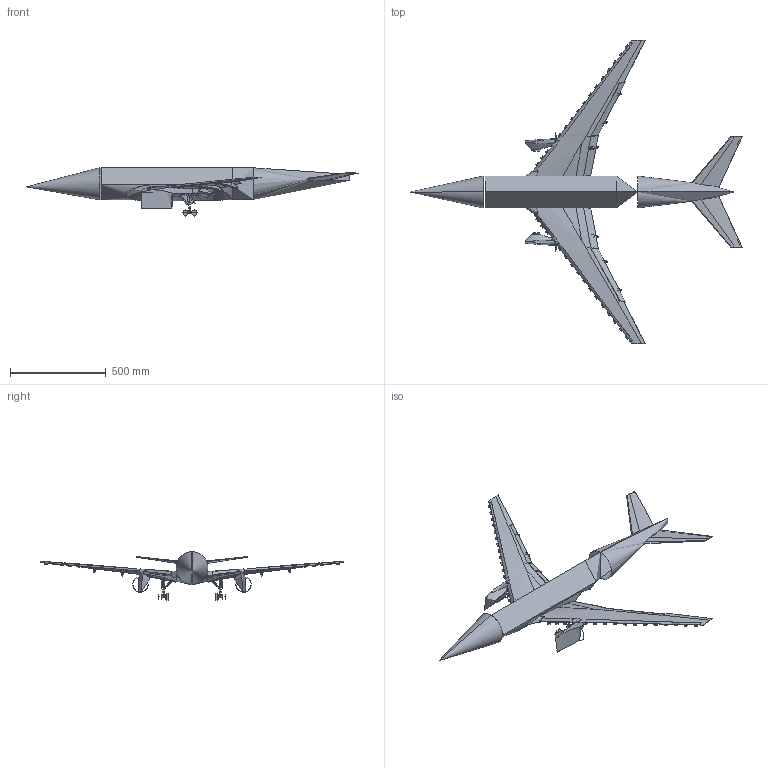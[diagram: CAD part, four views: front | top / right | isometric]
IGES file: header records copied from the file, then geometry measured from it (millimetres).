
Global section: file name: Z:\prj5.0\crm-hl-2p7-rivers\outgoing\geometry\3001000_fullspan_configs_2025_07_01\3001000_FULL_SPAN_TAKEOFF_CONFIG_clean_2025_07_01.igs; native system: NX V12.0; preprocessor: SIEMENS PLM Software NX 12.0; date: 20250702.134221; units: inch
Bounding box: 1737.79 x 1587.06 x 253.09 mm (x, y, z)
Surface area: 1725863.9 mm2 (no closed solid volume)
Topology: 0 solids, 0 shells, 1668 faces, 11993 edges, 11966 vertices
Faces by surface type: bspline 1646, offset 22
